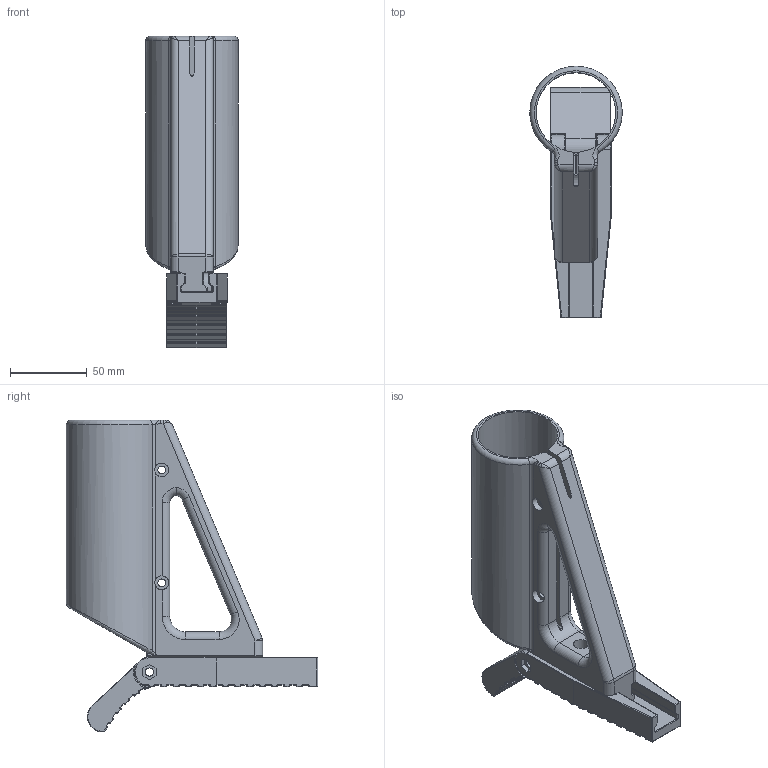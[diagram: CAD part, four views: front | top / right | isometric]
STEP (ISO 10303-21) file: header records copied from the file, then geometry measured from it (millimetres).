
FILE_DESCRIPTION(/* description */ ('Unknown'),/* implementation_level */ '2;1');
FILE_NAME(/* name */ 'Kolba Sport',/* time_stamp */ '2025-11-11T11:43:03+01:00',/* author */ ('Unknown'),/* organization */ ('Unknown'),/* preprocessor_version */ 'ST-DEVELOPER v16.7',/* originating_system */ 'DEX',/* authorisation */ $);
FILE_SCHEMA (('AUTOMOTIVE_DESIGN {1 0 10303 214 3 1 1}'));
Length unit declared in the file: millimetre
Products named in the file (4): Kolba Sport; Stock Rail; Stock Wing
Assembly tree (3 placements, depth 2):
  Kolba Sport
    Stock Rail
    Stock Wing
    Kolba Sport
Bounding box: 60 x 163.42 x 202.79 mm (x, y, z)
Volume: 298614.4 mm3; surface area: 97156.7 mm2
Topology: 3 solids, 3 shells, 647 faces, 1596 edges, 867 vertices
Faces by surface type: cylinder 285, plane 121, sphere 91, torus 84, bspline 66
Full cylindrical faces by diameter (mm): 3.5 x1, 5 x4, 5.3 x3, 7.3 x1, 9 x2, 10 x1, 51.7 x1
Entity records: 19968 total; most frequent: CARTESIAN_POINT 4211, DIRECTION 3338, ORIENTED_EDGE 2958, EDGE_CURVE 1479, AXIS2_PLACEMENT_3D 1370, VERTEX_POINT 850, EDGE_LOOP 681, FACE_BOUND 681
